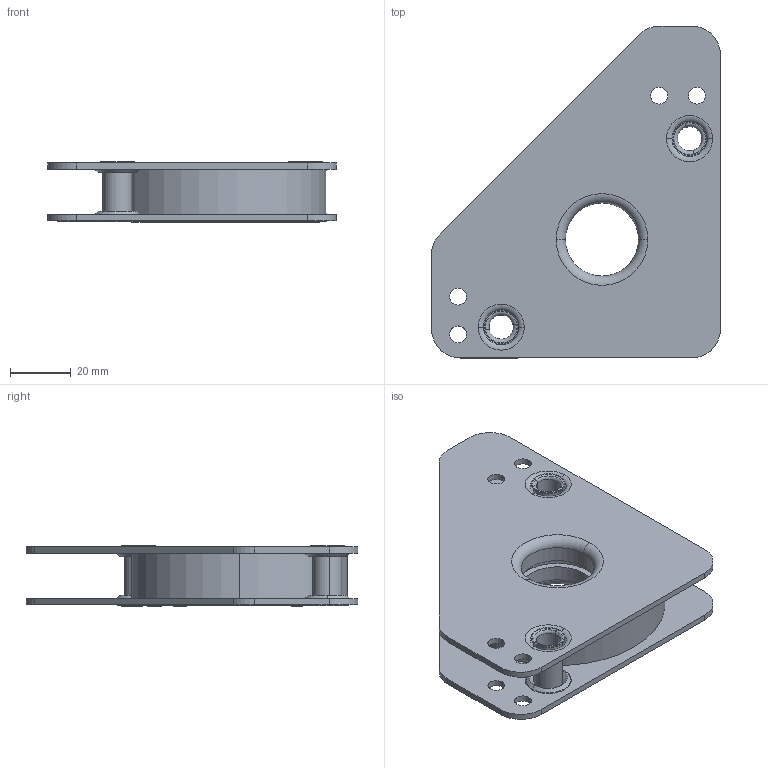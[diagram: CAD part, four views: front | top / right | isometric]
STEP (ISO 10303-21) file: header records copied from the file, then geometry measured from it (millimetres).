
FILE_DESCRIPTION (( 'STEP AP203' ), '1' );
FILE_NAME ('WS400.STEP', '2018-08-21T12:28:43', ( '' ), ( '' ), 'SwSTEP 2.0', 'SolidWorks 2015', '' );
FILE_SCHEMA (( 'CONFIG_CONTROL_DESIGN' ));
Length unit declared in the file: inch
Products named in the file (1): WS400
Bounding box: 95.25 x 109.47 x 19.95 mm (x, y, z)
Volume: 81353.4 mm3; surface area: 55009.6 mm2
Topology: 6 solids, 6 shells, 992 faces, 2697 edges, 1782 vertices
Faces by surface type: plane 515, bspline 367, cylinder 54, torus 32, cone 24
Entity records: 33080 total; most frequent: CARTESIAN_POINT 10239, ORIENTED_EDGE 5394, DIRECTION 3419, EDGE_CURVE 2697, VERTEX_POINT 1782, VECTOR 1759, LINE 1759, EDGE_LOOP 1093
